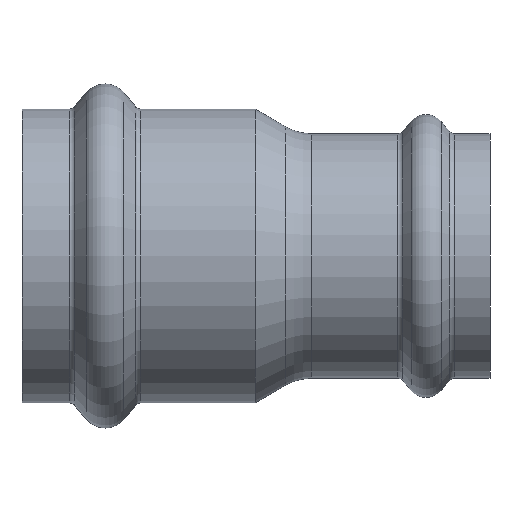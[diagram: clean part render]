
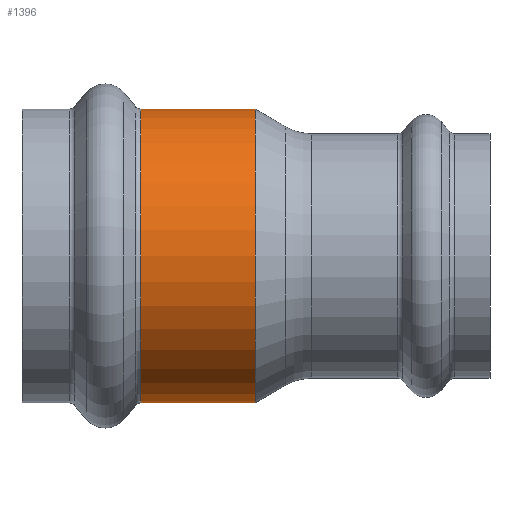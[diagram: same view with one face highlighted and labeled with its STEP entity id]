
A CAD part, front view. The second image highlights one B-rep face of the part: STEP entity #1396.
In plain terms, the highlighted cylindrical face has radius 23 mm (diameter 46 mm), a partial arc.
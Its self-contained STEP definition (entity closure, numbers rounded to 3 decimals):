
#71 = AXIS2_PLACEMENT_3D ( 'NONE', #1645, #1601, #1594 ) ;
#128 = DIRECTION ( 'NONE',  ( -1., 0., 0. ) ) ;
#167 = CARTESIAN_POINT ( 'NONE',  ( -11.55, 0., -23. ) ) ;
#176 = VERTEX_POINT ( 'NONE', #823 ) ;
#188 = FACE_OUTER_BOUND ( 'NONE', #352, .T. ) ;
#352 = EDGE_LOOP ( 'NONE', ( #657, #611, #568, #473 ) ) ;
#417 = AXIS2_PLACEMENT_3D ( 'NONE', #1543, #1493, #1676 ) ;
#473 = ORIENTED_EDGE ( 'NONE', *, *, #837, .T. ) ;
#490 = CIRCLE ( 'NONE', #417, 23. ) ;
#520 = LINE ( 'NONE', #167, #627 ) ;
#538 = EDGE_CURVE ( 'NONE', #1628, #1064, #520, .T. ) ;
#566 = AXIS2_PLACEMENT_3D ( 'NONE', #1870, #1859, #1783 ) ;
#568 = ORIENTED_EDGE ( 'NONE', *, *, #1366, .T. ) ;
#611 = ORIENTED_EDGE ( 'NONE', *, *, #1070, .T. ) ;
#627 = VECTOR ( 'NONE', #128, 1000. ) ;
#657 = ORIENTED_EDGE ( 'NONE', *, *, #538, .F. ) ;
#823 = CARTESIAN_POINT ( 'NONE',  ( 22.566, 0., 23. ) ) ;
#837 = EDGE_CURVE ( 'NONE', #176, #1064, #490, .T. ) ;
#1064 = VERTEX_POINT ( 'NONE', #1824 ) ;
#1070 = EDGE_CURVE ( 'NONE', #1628, #1323, #1112, .T. ) ;
#1112 = CIRCLE ( 'NONE', #71, 23. ) ;
#1125 = CARTESIAN_POINT ( 'NONE',  ( 40.482, 0., 23. ) ) ;
#1323 = VERTEX_POINT ( 'NONE', #1125 ) ;
#1354 = CYLINDRICAL_SURFACE ( 'NONE', #566, 23. ) ;
#1366 = EDGE_CURVE ( 'NONE', #1323, #176, #1509, .T. ) ;
#1396 = ADVANCED_FACE ( 'NONE', ( #188 ), #1354, .T. ) ;
#1493 = DIRECTION ( 'NONE',  ( 1., 0., 0. ) ) ;
#1509 = LINE ( 'NONE', #1613, #1829 ) ;
#1543 = CARTESIAN_POINT ( 'NONE',  ( 22.566, 0., 0. ) ) ;
#1594 = DIRECTION ( 'NONE',  ( 0., 0., 1. ) ) ;
#1601 = DIRECTION ( 'NONE',  ( -1., 0., 0. ) ) ;
#1613 = CARTESIAN_POINT ( 'NONE',  ( -11.55, 0., 23. ) ) ;
#1615 = DIRECTION ( 'NONE',  ( -1., 0., 0. ) ) ;
#1628 = VERTEX_POINT ( 'NONE', #1816 ) ;
#1645 = CARTESIAN_POINT ( 'NONE',  ( 40.482, 0., 0. ) ) ;
#1676 = DIRECTION ( 'NONE',  ( 0., 0., 1. ) ) ;
#1783 = DIRECTION ( 'NONE',  ( 0., 0., 1. ) ) ;
#1816 = CARTESIAN_POINT ( 'NONE',  ( 40.482, 0., -23. ) ) ;
#1824 = CARTESIAN_POINT ( 'NONE',  ( 22.566, 0., -23. ) ) ;
#1829 = VECTOR ( 'NONE', #1615, 1000. ) ;
#1859 = DIRECTION ( 'NONE',  ( -1., 0., 0. ) ) ;
#1870 = CARTESIAN_POINT ( 'NONE',  ( -11.55, 0., 0. ) ) ;
